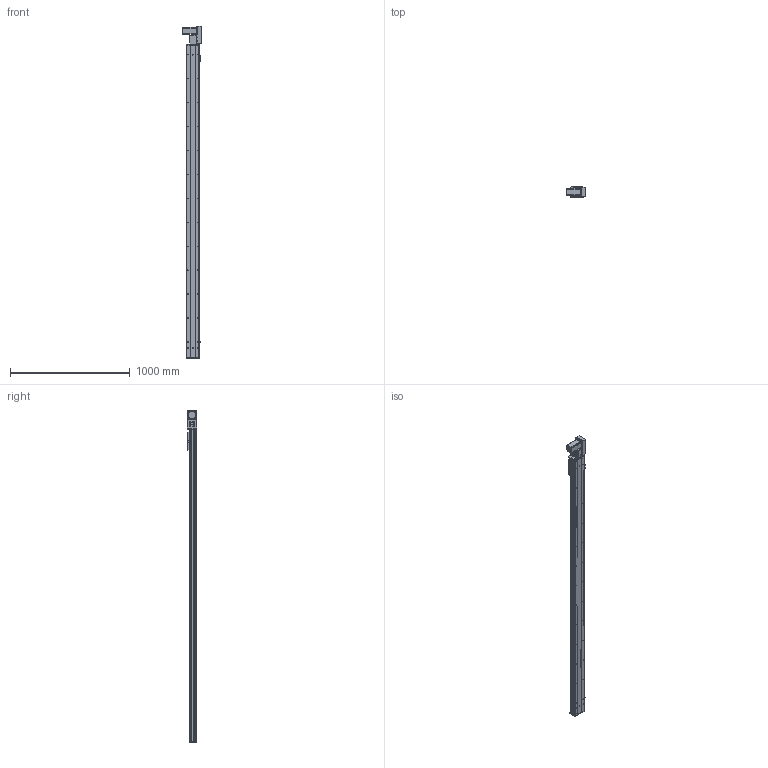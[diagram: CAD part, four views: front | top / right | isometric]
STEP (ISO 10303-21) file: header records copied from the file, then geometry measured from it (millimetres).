
FILE_DESCRIPTION (( 'STEP AP203' ), '1' );
FILE_NAME ('Y10CB-D90-S2350-BR-P400W.STEP', '2020-02-16T02:24:06', ( '微软用户' ), ( '微软中国' ), 'SwSTEP 2.0', 'SolidWorks 2017', '' );
FILE_SCHEMA (( 'CONFIG_CONTROL_DESIGN' ));
Length unit declared in the file: millimetre
Products named in the file (18): Y10CB-D90-S2350-BR-P400W; 10CB-詩湍-; 0Cb-俋欶---; Y10CB- 掛极耜裔啣-毀---; Y10B-々湍喘謫眊楊擘啣--; Y10C---詩湍揤啣; Y10B-耜蚾蟀諉啣----; 10CB9-掛极; 0B-萇儂楊擘啣; 10CB-耜裔; san松下电机400不带刹车----; Y135C-陔俋离換覜結え-; 0B-源倛裔啣; Y100-135俋离換覜ん--; 0B-埴倛裔啣; Y10B--々湍喘謫眊--666; Y俋欶BR----; 0CB-雄赽釱---
Assembly tree (21 placements, depth 2):
  Y10CB-D90-S2350-BR-P400W
    0CB-雄赽釱---
    0Cb-俋欶---
    Y10B-々湍喘謫眊楊擘啣--
    Y10B-耜蚾蟀諉啣----
    0B-萇儂楊擘啣
    san松下电机400不带刹车----
    0B-源倛裔啣
    0B-埴倛裔啣
    Y俋欶BR----
    10CB-詩湍-
    Y10CB- 掛极耜裔啣-毀---  x2
    Y10C---詩湍揤啣  x2
    10CB9-掛极
    10CB-耜裔
    Y135C-陔俋离換覜結え-
    Y100-135俋离換覜ん--  x3
    Y10B--々湍喘謫眊--666
Bounding box: 157.5 x 80.5 x 2772.5 mm (x, y, z)
Volume: 5492341.5 mm3; surface area: 2601247.1 mm2
Topology: 21 solids, 21 shells, 1074 faces, 2923 edges, 1898 vertices
Faces by surface type: cylinder 557, plane 493, cone 24
Entity records: 34404 total; most frequent: CARTESIAN_POINT 6505, DIRECTION 5470, ORIENTED_EDGE 5316, EDGE_CURVE 2658, AXIS2_PLACEMENT_3D 1953, VERTEX_POINT 1724, VECTOR 1564, LINE 1564
